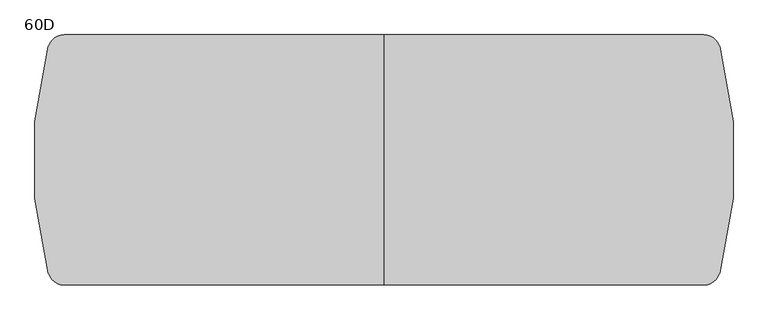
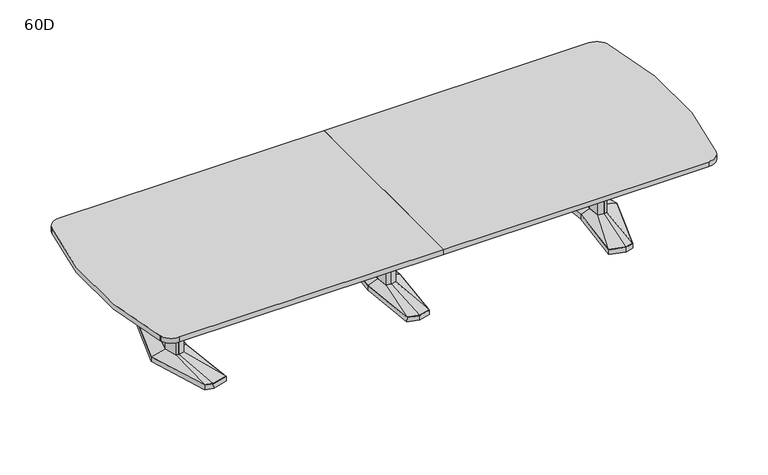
"""IFC4 building model written with IfcOpenShell, lengths in millimetres: furniture geometry, Coalesse_AM_Table_Conference_ETable2_SoftRadiused_14ft_AluminiumBase : 60D."""

from ifc_helpers import new_model, si_unit, point, frame, frame_2d, origin, place, context, project, spatial, polyline, circle_curve, trimmed, segment, composite_curve, outline, extrude, faceted_brep, source, transform, mapped, element, save
from ifc_brep_helpers import plane_surface, spline_surface, advanced_brep


def furniture_60d_944d2cdd(model_context):
    return source(origin(), model_context, "Body", "SolidModel", [
        faceted_brep([(-81.2333791, -433.8053819, 38.1), (0.0, -455.556576, 38.1), (81.2333791, -433.8053819, 38.1), (119.0564774, 0.0, 38.1), (81.2333791, 433.8053819, 38.1), (0.0, 455.556576, 38.1), (-81.2333791, 433.8053819, 38.1), (-119.0564774, 0.0, 38.1), (-82.7182795, -435.0512063, 3.175), (-120.65, 0.0, 3.175), (-82.7182795, 435.0512063, 3.175), (0.0, 457.2, 3.175), (82.7182795, 435.0512063, 3.175), (120.65, 0.0, 3.175), (82.7182795, -435.0512063, 3.175), (0.0, -457.2, 3.175), (0.0, 429.2617927, 3.175), (-77.9676806, 408.3850278, 3.175), (-74.7019821, 382.9646737, 3.175), (0.0, 402.9670094, 3.175), (74.7019821, 382.9646737, 3.175), (77.9676806, 408.3850278, 3.175), (0.0, -429.2617927, 3.175), (77.9676806, -408.3850278, 3.175), (74.7019821, -382.9646737, 3.175), (0.0, -402.9670094, 3.175), (-74.7019821, -382.9646737, 3.175), (-77.9676806, -408.3850278, 3.175), (-71.8574262, 114.6326257, 3.175), (-82.5426076, 0.0, 3.175), (-71.8574262, -114.6326257, 3.175), (0.0, -133.8761372, 3.175), (71.8574262, -114.6326257, 3.175), (82.5426076, 0.0, 3.175), (71.8574262, 114.6326257, 3.175), (0.0, 133.8761372, 3.175), (0.0, 429.2617927, 0.0), (77.9676806, 408.3850278, 0.0), (74.7019821, 382.9646737, 0.0), (0.0, 402.9670094, 0.0), (-74.7019821, 382.9646737, 0.0), (-77.9676806, 408.3850278, 0.0), (0.0, -429.2617927, 0.0), (-77.9676806, -408.3850278, 0.0), (-74.7019821, -382.9646737, 0.0), (0.0, -402.9670094, 0.0), (74.7019821, -382.9646737, 0.0), (77.9676806, -408.3850278, 0.0), (-71.8574262, 114.6326257, 0.0), (0.0, 133.8761372, 0.0), (71.8574262, 114.6326257, 0.0), (82.5426076, 0.0, 0.0), (71.8574262, -114.6326257, 0.0), (0.0, -133.8761372, 0.0), (-71.8574262, -114.6326257, 0.0), (-82.5426076, 0.0, 0.0)], [[[0, 1, 2, 3, 4, 5, 6, 7]], [[8, 9, 10, 11, 12, 13, 14, 15], [16, 17, 18, 19, 20, 21], [22, 23, 24, 25, 26, 27], [28, 29, 30, 31, 32, 33, 34, 35]], [[1, 0, 8, 15]], [[2, 1, 15, 14]], [[3, 2, 14, 13]], [[4, 3, 13, 12]], [[5, 4, 12, 11]], [[6, 5, 11, 10]], [[7, 6, 10, 9]], [[0, 7, 9, 8]], [[36, 37, 38, 39, 40, 41]], [[42, 43, 44, 45, 46, 47]], [[48, 49, 50, 51, 52, 53, 54, 55]], [[36, 41, 17, 16]], [[41, 40, 18, 17]], [[40, 39, 19, 18]], [[39, 38, 20, 19]], [[38, 37, 21, 20]], [[37, 36, 16, 21]], [[42, 47, 23, 22]], [[47, 46, 24, 23]], [[46, 45, 25, 24]], [[45, 44, 26, 25]], [[44, 43, 27, 26]], [[43, 42, 22, 27]], [[48, 55, 29, 28]], [[55, 54, 30, 29]], [[54, 53, 31, 30]], [[53, 52, 32, 31]], [[52, 51, 33, 32]], [[51, 50, 34, 33]], [[50, 49, 35, 34]], [[49, 48, 28, 35]]]),
        faceted_brep([(-36.3832834, 84.6900825, 698.5), (-44.2774487, 0.0, 698.5), (-36.3832834, -84.6900825, 698.5), (0.0, -94.4335728, 698.5), (36.3832834, -84.6900825, 698.5), (44.2774487, 0.0, 698.5), (36.3832834, 84.6900825, 698.5), (0.0, 94.4335728, 698.5), (-36.3832834, 84.6900825, 63.5), (0.0, 94.4335728, 63.5), (36.3832834, 84.6900825, 63.5), (44.2774487, 0.0, 63.5), (36.3832834, -84.6900825, 63.5), (0.0, -94.4335728, 63.5), (-36.3832834, -84.6900825, 63.5), (-44.2774487, 0.0, 63.5)], [[[0, 1, 2, 3, 4, 5, 6, 7]], [[8, 9, 10, 11, 12, 13, 14, 15]], [[1, 0, 8, 15]], [[2, 1, 15, 14]], [[3, 2, 14, 13]], [[4, 3, 13, 12]], [[5, 4, 12, 11]], [[6, 5, 11, 10]], [[7, 6, 10, 9]], [[0, 7, 9, 8]]]),
        advanced_brep(
        [(-36.3832834, 84.6900825, 63.5), (-44.2774487, 0.0, 63.5), (-36.3832834, -84.6900825, 63.5), (0.0, -94.4335728, 63.5), (36.3832834, -84.6900825, 63.5), (44.2774487, 0.0, 63.5), (36.3832834, 84.6900825, 63.5), (0.0, 94.4335728, 63.5), (-81.2333791, 433.8053819, 38.1), (0.0, 455.556576, 38.1), (81.2333791, 433.8053819, 38.1), (119.0564774, 0.0, 38.1), (81.2333791, -433.8053819, 38.1), (0.0, -455.556576, 38.1), (-81.2333791, -433.8053819, 38.1), (-119.0564774, 0.0, 38.1)],
        [
            (0, 1),
            (1, 2),
            (2, 3),
            (3, 4),
            (4, 5),
            (5, 6),
            (6, 7),
            (7, 0),
            (8, 9),
            (9, 10),
            (10, 11),
            (11, 12),
            (12, 13),
            (13, 14),
            (14, 15),
            (15, 8),
            (15, 1),
            (0, 8),
            (14, 2),
            (13, 3),
            (12, 4),
            (11, 5),
            (10, 6),
            (9, 7),
        ],
        [
            plane_surface(frame((0.0, 0.0, 63.5), z_axis=(0.0, 0.0, 1.0000000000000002), x_axis=(-0.9659615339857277, -0.25868574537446, 0.0))),
            plane_surface(frame((0.0, 0.0, 38.1), z_axis=(0.0, 0.0, -1.0000000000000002), x_axis=(-0.9659615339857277, -0.25868574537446, 0.0))),
            spline_surface(1, 1, [[(-81.2333791, 433.8053819, 38.1), (-36.3832834, 84.6900825, 63.5)], [(-119.0564774, 0.0, 38.1), (-44.2774487, 0.0, 63.5)]], [2, 2], [2, 2], [0.0, 1.0], [0.0, 1.0]),
            spline_surface(1, 1, [[(-119.0564774, 0.0, 38.1), (-44.2774487, 0.0, 63.5)], [(-81.2333791, -433.8053819, 38.1), (-36.3832834, -84.6900825, 63.5)]], [2, 2], [2, 2], [0.0, 1.0], [0.0, 1.0]),
            spline_surface(1, 1, [[(-81.2333791, -433.8053819, 38.1), (-36.3832834, -84.6900825, 63.5)], [(0.0, -455.556576, 38.1), (0.0, -94.4335728, 63.5)]], [2, 2], [2, 2], [0.0, 1.0], [0.0, 1.0]),
            spline_surface(1, 1, [[(0.0, -455.556576, 38.1), (0.0, -94.4335728, 63.5)], [(81.2333791, -433.8053819, 38.1), (36.3832834, -84.6900825, 63.5)]], [2, 2], [2, 2], [0.0, 1.0], [0.0, 1.0]),
            spline_surface(1, 1, [[(81.2333791, -433.8053819, 38.1), (36.3832834, -84.6900825, 63.5)], [(119.0564774, 0.0, 38.1), (44.2774487, 0.0, 63.5)]], [2, 2], [2, 2], [0.0, 1.0], [0.0, 1.0]),
            spline_surface(1, 1, [[(119.0564774, 0.0, 38.1), (44.2774487, 0.0, 63.5)], [(81.2333791, 433.8053819, 38.1), (36.3832834, 84.6900825, 63.5)]], [2, 2], [2, 2], [0.0, 1.0], [0.0, 1.0]),
            spline_surface(1, 1, [[(81.2333791, 433.8053819, 38.1), (36.3832834, 84.6900825, 63.5)], [(0.0, 455.556576, 38.1), (0.0, 94.4335728, 63.5)]], [2, 2], [2, 2], [0.0, 1.0], [0.0, 1.0]),
            spline_surface(1, 1, [[(0.0, 455.556576, 38.1), (0.0, 94.4335728, 63.5)], [(-81.2333791, 433.8053819, 38.1), (-36.3832834, 84.6900825, 63.5)]], [2, 2], [2, 2], [0.0, 1.0], [0.0, 1.0]),
        ],
        [
            (0, [[1, 2, 3, 4, 5, 6, 7, 8]]),
            (1, [[9, 10, 11, 12, 13, 14, 15, 16]]),
            (2, [[-16, 17, -1, 18]]),
            (3, [[-15, 19, -2, -17]]),
            (4, [[-14, 20, -3, -19]]),
            (5, [[-13, 21, -4, -20]]),
            (6, [[-12, 22, -5, -21]]),
            (7, [[-11, 23, -6, -22]]),
            (8, [[-10, 24, -7, -23]]),
            (9, [[-9, -18, -8, -24]]),
        ],
    ),
        faceted_brep([(1515.4306835, 455.5848221, 38.1), (1405.8531277, 426.2263816, 38.1), (1447.0163717, 0.0, 38.1), (1405.8531277, -426.2263816, 38.1), (1515.4306835, -455.5848221, 38.1), (1571.5570396, -440.5478297, 38.1), (1708.8684269, 0.0, 38.1), (1571.5570396, 440.5478297, 38.1), (1515.4306754, 457.2283104, 3.175), (1572.8124472, 441.8549756, 3.175), (1710.53125, 0.0, 3.175), (1572.8124472, -441.8549756, 3.175), (1515.4306754, -457.2283104, 3.175), (1404.14375, -427.4118891, 3.175), (1445.4214856, 0.0, 3.175), (1404.14375, 427.4118891, 3.175), (1519.020115, 428.3273875, 3.175), (1413.9718228, 402.1057253, 3.175), (1422.090518, 377.985069, 3.175), (1522.6095466, 401.0699529, 3.175), (1573.1691725, 387.524361, 3.175), (1572.3631061, 414.0360954, 3.175), (1519.020115, -428.3273875, 3.175), (1572.3631061, -414.0360954, 3.175), (1573.1691725, -387.524361, 3.175), (1522.6095466, -401.0699529, 3.175), (1422.090518, -377.985069, 3.175), (1413.9718228, -402.1057253, 3.175), (1645.6153621, 0.0, 3.175), (1613.3459611, 120.4193755, 3.175), (1564.6987222, 133.471665, 3.175), (1484.8180526, 119.4176561, 3.175), (1473.6868466, 0.0, 3.175), (1484.8180526, -119.4176561, 3.175), (1564.6987222, -133.471665, 3.175), (1613.3459611, -120.4193755, 3.175), (1519.020115, 428.3273875, 0.0), (1572.3631061, 414.0360954, 0.0), (1573.1691725, 387.524361, 0.0), (1522.6095466, 401.0699529, 0.0), (1422.090518, 377.985069, 0.0), (1413.9718228, 402.1057253, 0.0), (1519.020115, -428.3273875, 0.0), (1413.9718228, -402.1057253, 0.0), (1422.090518, -377.985069, 0.0), (1522.6095466, -401.0699529, 0.0), (1573.1691725, -387.524361, 0.0), (1572.3631061, -414.0360954, 0.0), (1645.6153621, 0.0, 0.0), (1613.3459611, -120.4193755, 0.0), (1564.6987222, -133.471665, 0.0), (1484.8180526, -119.4176561, 0.0), (1473.6868466, 0.0, 0.0), (1484.8180526, 119.4176561, 0.0), (1564.6987222, 133.471665, 0.0), (1613.3459611, 120.4193755, 0.0)], [[[0, 1, 2, 3, 4, 5, 6, 7]], [[8, 9, 10, 11, 12, 13, 14, 15], [16, 17, 18, 19, 20, 21], [22, 23, 24, 25, 26, 27], [28, 29, 30, 31, 32, 33, 34, 35]], [[7, 9, 8, 0]], [[6, 10, 9, 7]], [[5, 11, 10, 6]], [[4, 12, 11, 5]], [[3, 13, 12, 4]], [[2, 14, 13, 3]], [[1, 15, 14, 2]], [[0, 8, 15, 1]], [[36, 37, 38, 39, 40, 41]], [[42, 43, 44, 45, 46, 47]], [[48, 49, 50, 51, 52, 53, 54, 55]], [[36, 16, 21, 37]], [[37, 21, 20, 38]], [[38, 20, 19, 39]], [[39, 19, 18, 40]], [[40, 18, 17, 41]], [[41, 17, 16, 36]], [[42, 22, 27, 43]], [[43, 27, 26, 44]], [[44, 26, 25, 45]], [[45, 25, 24, 46]], [[46, 24, 23, 47]], [[47, 23, 22, 42]], [[48, 28, 35, 49]], [[49, 35, 34, 50]], [[50, 34, 33, 51]], [[51, 33, 32, 52]], [[52, 32, 31, 53]], [[53, 31, 30, 54]], [[54, 30, 29, 55]], [[55, 29, 28, 48]]]),
        faceted_brep([(1606.1710836, 0.0, 698.5), (1582.2358546, 89.3188359, 698.5), (1565.3824984, 93.8406728, 698.5), (1562.9826511, 94.4845635, 698.5), (1520.055146, 86.9320037, 698.5), (1511.9520056, 0.0, 698.5), (1520.055146, -86.9320037, 698.5), (1562.9826511, -94.4845635, 698.5), (1565.3824984, -93.8406728, 698.5), (1582.2358546, -89.3188359, 698.5), (1606.1710836, 0.0, 63.5), (1582.2358546, -89.3188359, 63.5), (1565.3824984, -93.8406728, 63.5), (1562.9826511, -94.4845635, 63.5), (1520.055146, -86.9320037, 63.5), (1511.9520056, 0.0, 63.5), (1520.055146, 86.9320037, 63.5), (1562.9826511, 94.4845635, 63.5), (1565.3824984, 93.8406728, 63.5), (1582.2358546, 89.3188359, 63.5)], [[[0, 1, 2, 3, 4, 5, 6, 7, 8, 9]], [[10, 11, 12, 13, 14, 15, 16, 17, 18, 19]], [[9, 11, 10, 0]], [[8, 12, 11, 9]], [[7, 13, 12, 8]], [[6, 14, 13, 7]], [[5, 15, 14, 6]], [[4, 16, 15, 5]], [[3, 17, 16, 4]], [[2, 18, 17, 3]], [[1, 19, 18, 2]], [[0, 10, 19, 1]]]),
        advanced_brep(
        [(1562.9826511, 94.4845635, 63.5), (1520.055146, 86.9320037, 63.5), (1511.9520056, 0.0, 63.5), (1520.055146, -86.9320037, 63.5), (1562.9826511, -94.4845635, 63.5), (1582.2358546, -89.3188359, 63.5), (1606.1710836, 0.0, 63.5), (1582.2358546, 89.3188359, 63.5), (1515.4306835, 455.5848221, 38.1), (1571.5570396, 440.5478297, 38.1), (1708.8684269, 0.0, 38.1), (1571.5570396, -440.5478297, 38.1), (1515.4306835, -455.5848221, 38.1), (1405.8531277, -426.2263816, 38.1), (1447.0163717, 0.0, 38.1), (1405.8531277, 426.2263816, 38.1)],
        [
            (0, 1),
            (1, 2),
            (2, 3),
            (3, 4),
            (4, 5),
            (5, 6),
            (6, 7),
            (7, 0),
            (8, 9),
            (9, 10),
            (10, 11),
            (11, 12),
            (12, 13),
            (13, 14),
            (14, 15),
            (15, 8),
            (8, 0),
            (7, 9),
            (6, 10),
            (5, 11),
            (4, 12),
            (3, 13),
            (2, 14),
            (1, 15),
        ],
        [
            plane_surface(frame((1556.0837991, 0.0, 63.5), z_axis=(0.0, 0.0, 1.0), x_axis=(-0.25884244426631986, -0.9659195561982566, 0.0))),
            plane_surface(frame((1517.6958125, 0.0, 38.1), z_axis=(0.0, 0.0, -1.0), x_axis=(-0.25884244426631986, -0.9659195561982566, 0.0))),
            spline_surface(1, 1, [[(1515.4306835, 455.5848221, 38.1), (1571.5570396, 440.5478297, 38.1)], [(1562.9826511, 94.4845635, 63.5), (1582.2358546, 89.3188359, 63.5)]], [2, 2], [2, 2], [0.0, 1.0], [0.0, 1.0]),
            spline_surface(1, 1, [[(1571.5570396, 440.5478297, 38.1), (1708.8684269, 0.0, 38.1)], [(1582.2358546, 89.3188359, 63.5), (1606.1710836, 0.0, 63.5)]], [2, 2], [2, 2], [0.0, 1.0], [0.0, 1.0]),
            spline_surface(1, 1, [[(1708.8684269, 0.0, 38.1), (1571.5570396, -440.5478297, 38.1)], [(1606.1710836, 0.0, 63.5), (1582.2358546, -89.3188359, 63.5)]], [2, 2], [2, 2], [0.0, 1.0], [0.0, 1.0]),
            spline_surface(1, 1, [[(1571.5570396, -440.5478297, 38.1), (1515.4306835, -455.5848221, 38.1)], [(1582.2358546, -89.3188359, 63.5), (1562.9826511, -94.4845635, 63.5)]], [2, 2], [2, 2], [0.0, 1.0], [0.0, 1.0]),
            spline_surface(1, 1, [[(1515.4306835, -455.5848221, 38.1), (1405.8531277, -426.2263816, 38.1)], [(1562.9826511, -94.4845635, 63.5), (1520.055146, -86.9320037, 63.5)]], [2, 2], [2, 2], [0.0, 1.0], [0.0, 1.0]),
            spline_surface(1, 1, [[(1405.8531277, -426.2263816, 38.1), (1447.0163717, 0.0, 38.1)], [(1520.055146, -86.9320037, 63.5), (1511.9520056, 0.0, 63.5)]], [2, 2], [2, 2], [0.0, 1.0], [0.0, 1.0]),
            spline_surface(1, 1, [[(1447.0163717, 0.0, 38.1), (1405.8531277, 426.2263816, 38.1)], [(1511.9520056, 0.0, 63.5), (1520.055146, 86.9320037, 63.5)]], [2, 2], [2, 2], [0.0, 1.0], [0.0, 1.0]),
            spline_surface(1, 1, [[(1405.8531277, 426.2263816, 38.1), (1515.4306835, 455.5848221, 38.1)], [(1520.055146, 86.9320037, 63.5), (1562.9826511, 94.4845635, 63.5)]], [2, 2], [2, 2], [0.0, 1.0], [0.0, 1.0]),
        ],
        [
            (0, [[1, 2, 3, 4, 5, 6, 7, 8]]),
            (1, [[9, 10, 11, 12, 13, 14, 15, 16]]),
            (2, [[17, -8, 18, -9]]),
            (3, [[-18, -7, 19, -10]]),
            (4, [[-19, -6, 20, -11]]),
            (5, [[-20, -5, 21, -12]]),
            (6, [[-21, -4, 22, -13]]),
            (7, [[-22, -3, 23, -14]]),
            (8, [[-23, -2, 24, -15]]),
            (9, [[-24, -1, -17, -16]]),
        ],
    ),
        faceted_brep([(-1515.4306835, 455.5848221, 38.1), (-1571.5570396, 440.5478297, 38.1), (-1708.8684269, 0.0, 38.1), (-1571.5570396, -440.5478297, 38.1), (-1515.4306835, -455.5848221, 38.1), (-1405.8531277, -426.2263816, 38.1), (-1447.0163717, 0.0, 38.1), (-1405.8531277, 426.2263816, 38.1), (-1515.4306754, 457.2283104, 3.175), (-1404.14375, 427.4118891, 3.175), (-1445.4214856, 0.0, 3.175), (-1404.14375, -427.4118891, 3.175), (-1515.4306754, -457.2283104, 3.175), (-1572.8124472, -441.8549756, 3.175), (-1710.53125, 0.0, 3.175), (-1572.8124472, 441.8549756, 3.175), (-1519.020115, 428.3273875, 3.175), (-1572.3631061, 414.0360954, 3.175), (-1573.1691725, 387.524361, 3.175), (-1522.6095466, 401.0699529, 3.175), (-1422.090518, 377.985069, 3.175), (-1413.9718228, 402.1057253, 3.175), (-1519.020115, -428.3273875, 3.175), (-1413.9718228, -402.1057253, 3.175), (-1422.090518, -377.985069, 3.175), (-1522.6095466, -401.0699529, 3.175), (-1573.1691725, -387.524361, 3.175), (-1572.3631061, -414.0360954, 3.175), (-1645.6153621, 0.0, 3.175), (-1613.3459611, -120.4193755, 3.175), (-1564.6987222, -133.471665, 3.175), (-1484.8180526, -119.4176561, 3.175), (-1473.6868466, 0.0, 3.175), (-1484.8180526, 119.4176561, 3.175), (-1564.6987222, 133.471665, 3.175), (-1613.3459611, 120.4193755, 3.175), (-1519.020115, 428.3273875, 0.0), (-1413.9718228, 402.1057253, 0.0), (-1422.090518, 377.985069, 0.0), (-1522.6095466, 401.0699529, 0.0), (-1573.1691725, 387.524361, 0.0), (-1572.3631061, 414.0360954, 0.0), (-1519.020115, -428.3273875, 0.0), (-1572.3631061, -414.0360954, 0.0), (-1573.1691725, -387.524361, 0.0), (-1522.6095466, -401.0699529, 0.0), (-1422.090518, -377.985069, 0.0), (-1413.9718228, -402.1057253, 0.0), (-1645.6153621, 0.0, 0.0), (-1613.3459611, 120.4193755, 0.0), (-1564.6987222, 133.471665, 0.0), (-1484.8180526, 119.4176561, 0.0), (-1473.6868466, 0.0, 0.0), (-1484.8180526, -119.4176561, 0.0), (-1564.6987222, -133.471665, 0.0), (-1613.3459611, -120.4193755, 0.0)], [[[0, 1, 2, 3, 4, 5, 6, 7]], [[8, 9, 10, 11, 12, 13, 14, 15], [16, 17, 18, 19, 20, 21], [22, 23, 24, 25, 26, 27], [28, 29, 30, 31, 32, 33, 34, 35]], [[1, 0, 8, 15]], [[2, 1, 15, 14]], [[3, 2, 14, 13]], [[4, 3, 13, 12]], [[5, 4, 12, 11]], [[6, 5, 11, 10]], [[7, 6, 10, 9]], [[0, 7, 9, 8]], [[36, 37, 38, 39, 40, 41]], [[42, 43, 44, 45, 46, 47]], [[48, 49, 50, 51, 52, 53, 54, 55]], [[36, 41, 17, 16]], [[41, 40, 18, 17]], [[40, 39, 19, 18]], [[39, 38, 20, 19]], [[38, 37, 21, 20]], [[37, 36, 16, 21]], [[42, 47, 23, 22]], [[47, 46, 24, 23]], [[46, 45, 25, 24]], [[45, 44, 26, 25]], [[44, 43, 27, 26]], [[43, 42, 22, 27]], [[48, 55, 29, 28]], [[55, 54, 30, 29]], [[54, 53, 31, 30]], [[53, 52, 32, 31]], [[52, 51, 33, 32]], [[51, 50, 34, 33]], [[50, 49, 35, 34]], [[49, 48, 28, 35]]]),
        faceted_brep([(-1606.1710836, 0.0, 698.5), (-1582.2358546, -89.3188359, 698.5), (-1565.3824984, -93.8406728, 698.5), (-1562.9826511, -94.4845635, 698.5), (-1520.055146, -86.9320037, 698.5), (-1511.9520056, 0.0, 698.5), (-1520.055146, 86.9320037, 698.5), (-1562.9826511, 94.4845635, 698.5), (-1565.3824984, 93.8406728, 698.5), (-1582.2358546, 89.3188359, 698.5), (-1606.1710836, 0.0, 63.5), (-1582.2358546, 89.3188359, 63.5), (-1565.3824984, 93.8406728, 63.5), (-1562.9826511, 94.4845635, 63.5), (-1520.055146, 86.9320037, 63.5), (-1511.9520056, 0.0, 63.5), (-1520.055146, -86.9320037, 63.5), (-1562.9826511, -94.4845635, 63.5), (-1565.3824984, -93.8406728, 63.5), (-1582.2358546, -89.3188359, 63.5)], [[[0, 1, 2, 3, 4, 5, 6, 7, 8, 9]], [[10, 11, 12, 13, 14, 15, 16, 17, 18, 19]], [[1, 0, 10, 19]], [[2, 1, 19, 18]], [[3, 2, 18, 17]], [[4, 3, 17, 16]], [[5, 4, 16, 15]], [[6, 5, 15, 14]], [[7, 6, 14, 13]], [[8, 7, 13, 12]], [[9, 8, 12, 11]], [[0, 9, 11, 10]]]),
        advanced_brep(
        [(-1562.9826511, 94.4845635, 63.5), (-1582.2358546, 89.3188359, 63.5), (-1606.1710836, 0.0, 63.5), (-1582.2358546, -89.3188359, 63.5), (-1562.9826511, -94.4845635, 63.5), (-1520.055146, -86.9320037, 63.5), (-1511.9520056, 0.0, 63.5), (-1520.055146, 86.9320037, 63.5), (-1515.4306835, 455.5848221, 38.1), (-1405.8531277, 426.2263816, 38.1), (-1447.0163717, 0.0, 38.1), (-1405.8531277, -426.2263816, 38.1), (-1515.4306835, -455.5848221, 38.1), (-1571.5570396, -440.5478297, 38.1), (-1708.8684269, 0.0, 38.1), (-1571.5570396, 440.5478297, 38.1)],
        [
            (0, 1),
            (1, 2),
            (2, 3),
            (3, 4),
            (4, 5),
            (5, 6),
            (6, 7),
            (7, 0),
            (8, 9),
            (9, 10),
            (10, 11),
            (11, 12),
            (12, 13),
            (13, 14),
            (14, 15),
            (15, 8),
            (15, 1),
            (0, 8),
            (14, 2),
            (13, 3),
            (12, 4),
            (11, 5),
            (10, 6),
            (9, 7),
        ],
        [
            plane_surface(frame((-1556.0837991, 0.0, 63.5), z_axis=(0.0, 0.0, 1.0), x_axis=(0.25884244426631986, -0.9659195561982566, 0.0))),
            plane_surface(frame((-1517.6958125, 0.0, 38.1), z_axis=(0.0, 0.0, -1.0), x_axis=(0.25884244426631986, -0.9659195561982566, 0.0))),
            spline_surface(1, 1, [[(-1515.4306835, 455.5848221, 38.1), (-1562.9826511, 94.4845635, 63.5)], [(-1571.5570396, 440.5478297, 38.1), (-1582.2358546, 89.3188359, 63.5)]], [2, 2], [2, 2], [0.0, 1.0], [0.0, 1.0]),
            spline_surface(1, 1, [[(-1571.5570396, 440.5478297, 38.1), (-1582.2358546, 89.3188359, 63.5)], [(-1708.8684269, 0.0, 38.1), (-1606.1710836, 0.0, 63.5)]], [2, 2], [2, 2], [0.0, 1.0], [0.0, 1.0]),
            spline_surface(1, 1, [[(-1708.8684269, 0.0, 38.1), (-1606.1710836, 0.0, 63.5)], [(-1571.5570396, -440.5478297, 38.1), (-1582.2358546, -89.3188359, 63.5)]], [2, 2], [2, 2], [0.0, 1.0], [0.0, 1.0]),
            spline_surface(1, 1, [[(-1571.5570396, -440.5478297, 38.1), (-1582.2358546, -89.3188359, 63.5)], [(-1515.4306835, -455.5848221, 38.1), (-1562.9826511, -94.4845635, 63.5)]], [2, 2], [2, 2], [0.0, 1.0], [0.0, 1.0]),
            spline_surface(1, 1, [[(-1515.4306835, -455.5848221, 38.1), (-1562.9826511, -94.4845635, 63.5)], [(-1405.8531277, -426.2263816, 38.1), (-1520.055146, -86.9320037, 63.5)]], [2, 2], [2, 2], [0.0, 1.0], [0.0, 1.0]),
            spline_surface(1, 1, [[(-1405.8531277, -426.2263816, 38.1), (-1520.055146, -86.9320037, 63.5)], [(-1447.0163717, 0.0, 38.1), (-1511.9520056, 0.0, 63.5)]], [2, 2], [2, 2], [0.0, 1.0], [0.0, 1.0]),
            spline_surface(1, 1, [[(-1447.0163717, 0.0, 38.1), (-1511.9520056, 0.0, 63.5)], [(-1405.8531277, 426.2263816, 38.1), (-1520.055146, 86.9320037, 63.5)]], [2, 2], [2, 2], [0.0, 1.0], [0.0, 1.0]),
            spline_surface(1, 1, [[(-1405.8531277, 426.2263816, 38.1), (-1520.055146, 86.9320037, 63.5)], [(-1515.4306835, 455.5848221, 38.1), (-1562.9826511, 94.4845635, 63.5)]], [2, 2], [2, 2], [0.0, 1.0], [0.0, 1.0]),
        ],
        [
            (0, [[1, 2, 3, 4, 5, 6, 7, 8]]),
            (1, [[9, 10, 11, 12, 13, 14, 15, 16]]),
            (2, [[-16, 17, -1, 18]]),
            (3, [[-15, 19, -2, -17]]),
            (4, [[-14, 20, -3, -19]]),
            (5, [[-13, 21, -4, -20]]),
            (6, [[-12, 22, -5, -21]]),
            (7, [[-11, 23, -6, -22]]),
            (8, [[-10, 24, -7, -23]]),
            (9, [[-9, -18, -8, -24]]),
        ],
    ),
        extrude(outline(polyline([(96.8375, 698.5), (103.1875, 698.5), (103.1875, 476.25), (-103.1875, 476.25), (-103.1875, 698.5), (-96.8375, 698.5), (-96.8375, 482.6), (96.8375, 482.6), (96.8375, 698.5)])), frame((44.2774487, 0.0, 0.0), z_axis=(1.0, 0.0, 0.0), x_axis=(0.0, 1.0, 0.0)), (0.0, 0.0, 1.0), 1467.8163013),
        extrude(outline(composite_curve([segment(trimmed(circle_curve(frame_2d((1944.4557965, 660.4)), 101.6), [point((1944.4557965, 762.0))], [point((2040.2453259, 694.2662966))], False, "CARTESIAN"), True, "CONTINUOUS"), segment(polyline([(2040.2453259, 694.2662966), (2040.9956256, 692.1441026)]), True, "CONTINUOUS"), segment(trimmed(circle_curve(frame_2d((-499.3157351, 0.0)), 2632.9157351), [point((2040.9956256, 692.1441026))], [point((2040.9956256, -692.1441026))], False, "CARTESIAN"), True, "CONTINUOUS"), segment(polyline([(2040.9956256, -692.1441026), (2040.2453259, -694.2662966)]), True, "CONTINUOUS"), segment(trimmed(circle_curve(frame_2d((1944.4557965, -660.4)), 101.6), [point((2040.2453259, -694.2662966))], [point((1944.4557965, -762.0))], False, "CARTESIAN"), True, "CONTINUOUS"), segment(polyline([(1944.4557965, -762.0), (0.0, -762.0), (0.0, 762.0), (1944.4557965, 762.0)]), True, "CONTINUOUS")], self_intersect=False)), frame((0.0, 0.0, 698.5), z_axis=(0.0, 0.0, 1.0), x_axis=(1.0, 0.0, 0.0)), (0.0, 0.0, 1.0), 38.1),
        extrude(outline(composite_curve([segment(polyline([(-1944.4557965, 762.0), (0.0, 762.0), (0.0, -762.0), (-1944.4557965, -762.0)]), True, "CONTINUOUS"), segment(trimmed(circle_curve(frame_2d((-1944.4557965, -660.4)), 101.6), [point((-1944.4557965, -762.0))], [point((-2040.2453259, -694.2662966))], False, "CARTESIAN"), True, "CONTINUOUS"), segment(polyline([(-2040.2453259, -694.2662966), (-2040.9956256, -692.1441026)]), True, "CONTINUOUS"), segment(trimmed(circle_curve(frame_2d((499.3157351, 0.0)), 2632.9157351), [point((-2040.9956256, -692.1441026))], [point((-2040.9956256, 692.1441026))], False, "CARTESIAN"), True, "CONTINUOUS"), segment(polyline([(-2040.9956256, 692.1441026), (-2040.2453259, 694.2662966)]), True, "CONTINUOUS"), segment(trimmed(circle_curve(frame_2d((-1944.4557965, 660.4)), 101.6), [point((-2040.2453259, 694.2662966))], [point((-1944.4557965, 762.0))], False, "CARTESIAN"), True, "CONTINUOUS")], self_intersect=False)), frame((0.0, 0.0, 698.5), z_axis=(0.0, 0.0, 1.0), x_axis=(1.0, 0.0, 0.0)), (0.0, 0.0, 1.0), 38.1),
        extrude(outline(polyline([(96.8375, 698.5), (103.1875, 698.5), (103.1875, 476.25), (-103.1875, 476.25), (-103.1875, 698.5), (-96.8375, 698.5), (-96.8375, 482.6), (96.8375, 482.6), (96.8375, 698.5)])), frame((-1512.09375, 0.0, 0.0), z_axis=(1.0, 0.0, 0.0), x_axis=(0.0, 1.0, 0.0)), (0.0, 0.0, 1.0), 1467.8163013),
    ])


if __name__ == "__main__":
    model = new_model("IFC4")
    model_context = context("Model", 3, world=origin())
    ifc_project = project(units=[si_unit("LENGTHUNIT", "METRE", prefix="MILLI")], contexts=[model_context])
    site = spatial("IfcSite", under=ifc_project)
    building = spatial("IfcBuilding", under=site)
    placement = place(None, origin())
    furniture_60d_shape = furniture_60d_944d2cdd(model_context)
    element("IfcFurniture", 1, ObjectType="Coalesse_AM_Table_Conference_ETable2_SoftRadiused_14ft_AluminiumBase : 60D", at=placement, inside=building, context=model_context, shape_type="MappedRepresentation", body=[
        mapped(furniture_60d_shape, transform((0.0, 0.0, 0.0), x_axis=(1.0, 0.0, 0.0), y_axis=(0.0, 1.0, 0.0), z_axis=(0.0, 0.0, 1.0))),
    ])
    save(model, "model.ifc")
